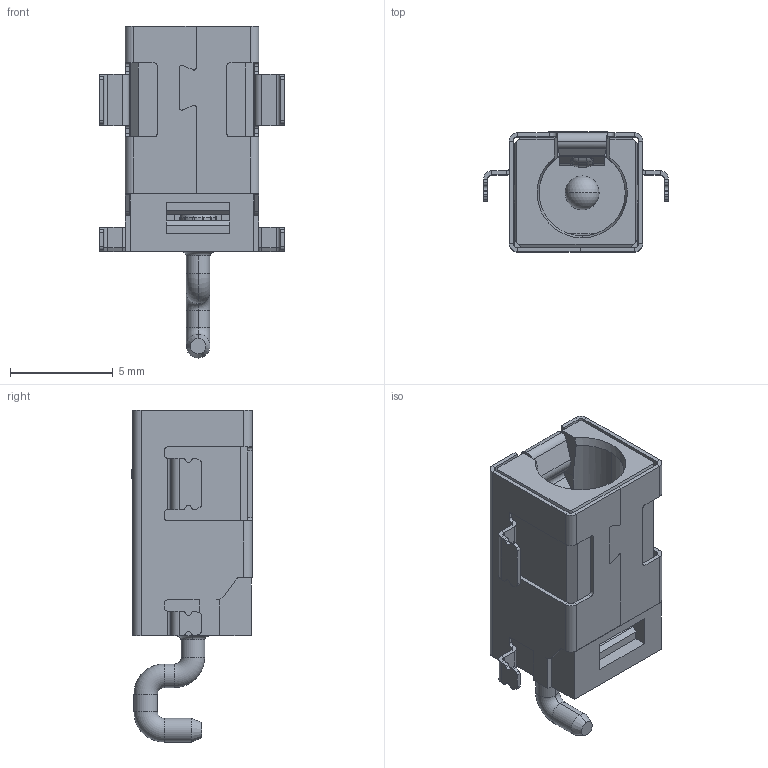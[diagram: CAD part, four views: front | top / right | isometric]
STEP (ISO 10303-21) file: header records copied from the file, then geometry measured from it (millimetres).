
FILE_DESCRIPTION (( 'STEP AP203' ), '1' );
FILE_NAME ('DC-S003A-D0165-7A.stp', '2023-07-04T02:18:06', ( '' ), ( '' ), 'SwSTEP 2.0', 'SolidWorks 2023', '' );
FILE_SCHEMA (( 'CONFIG_CONTROL_DESIGN' ));
Length unit declared in the file: millimetre
Products named in the file (1): DC-S003A-D0165-7A
Bounding box: 9 x 5.85 x 16.18 mm (x, y, z)
Volume: 279.1 mm3; surface area: 895.7 mm2
Topology: 1 solids, 2 shells, 847 faces, 2258 edges, 1425 vertices
Faces by surface type: plane 503, cylinder 216, bspline 80, torus 20, cone 18, sphere 10
Entity records: 30082 total; most frequent: CARTESIAN_POINT 9296, ORIENTED_EDGE 4508, DIRECTION 4015, EDGE_CURVE 2254, LINE 1579, VECTOR 1579, VERTEX_POINT 1423, AXIS2_PLACEMENT_3D 1218
